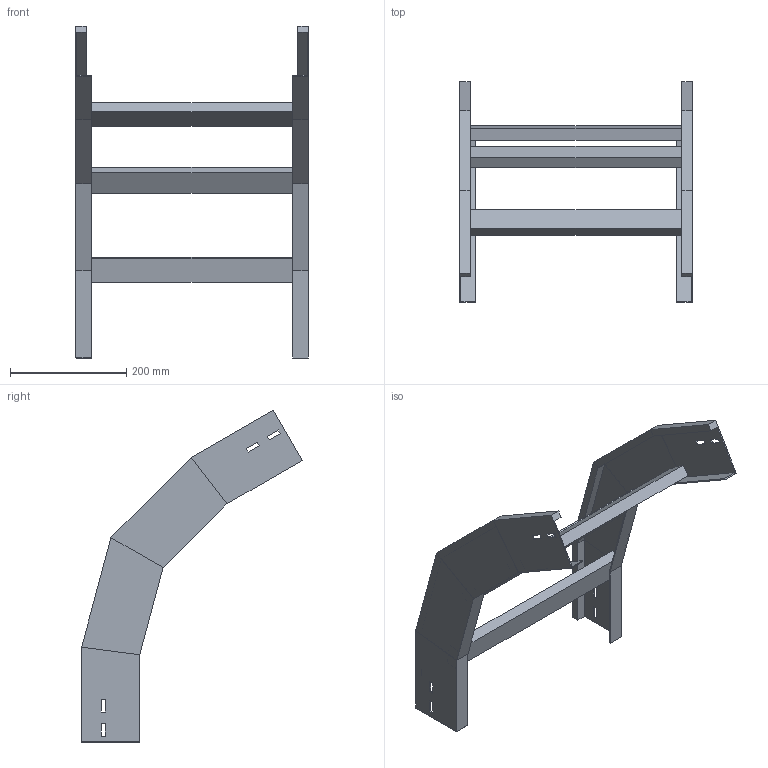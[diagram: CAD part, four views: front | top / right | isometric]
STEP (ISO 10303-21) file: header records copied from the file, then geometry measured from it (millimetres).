
FILE_DESCRIPTION (( 'STEP AP214' ), '1' );
FILE_NAME ('A2_41B3D400.step', '2025-02-21T14:56:38', ( '' ), ( '' ), 'SwSTEP 2.0', 'SolidWorks 2023', '' );
FILE_SCHEMA (( 'AUTOMOTIVE_DESIGN' ));
Length unit declared in the file: millimetre
Products named in the file (3): A2_41B3D400; LONGH.DISCESA_60°_H100_R300; TRAVERSINO_400
Assembly tree (5 placements, depth 2):
  A2_41B3D400
    LONGH.DISCESA_60°_H100_R300  x2
    TRAVERSINO_400  x3
Bounding box: 400 x 379.62 x 570.92 mm (x, y, z)
Volume: 1558764.7 mm3; surface area: 525933.5 mm2
Topology: 5 solids, 5 shells, 118 faces, 276 edges, 168 vertices
Faces by surface type: plane 118
Entity records: 1672 total; most frequent: CARTESIAN_POINT 276, ORIENTED_EDGE 264, DIRECTION 260, VECTOR 132, LINE 132, EDGE_CURVE 132, VERTEX_POINT 80, AXIS2_PLACEMENT_3D 64
